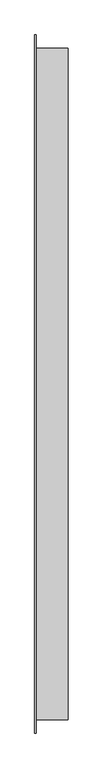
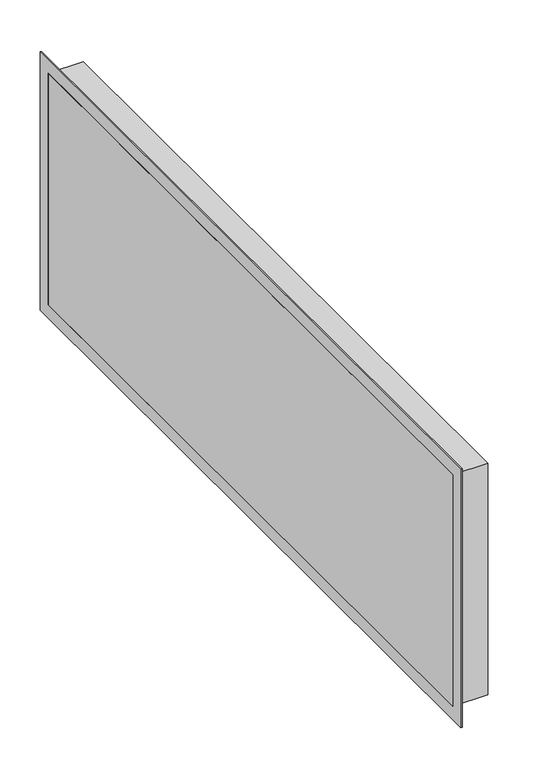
"""IFC4 building model written with IfcOpenShell, lengths in millimetres: duct fitting geometry, ADSK_ЗаглушкаВоздуховода_Прямоугольный : Стандартное."""

from ifc_helpers import new_model, si_unit, frame, origin, place, context, project, spatial, polyline, outline, extrude, source, transform, mapped, element, save


def duct_fitting_32a36c6a(model_context):
    return source(origin(), model_context, "Body", "SweptSolid", [
        extrude(outline(polyline([(0.0, -500.0), (0.0, 500.0), (50.0, 500.0), (50.0, -500.0), (0.0, -500.0)])), frame((0.0, 0.0, -175.0), z_axis=(0.0, 0.0, 1.0), x_axis=(1.0, 0.0, 0.0)), (0.0, 0.0, 1.0), 350.0),
        extrude(outline(polyline([(-520.0, 195.0), (520.0, 195.0), (520.0, -195.0), (-520.0, -195.0), (-520.0, 195.0)]), holes=[polyline([(-500.0, 175.0), (-500.0, -175.0), (500.0, -175.0), (500.0, 175.0), (-500.0, 175.0)])]), frame((0.0, 0.0, 0.0), z_axis=(1.0, 0.0, 0.0), x_axis=(0.0, 1.0, 0.0)), (0.0, 0.0, 1.0), 2.0),
    ])


if __name__ == "__main__":
    model = new_model("IFC4")
    model_context = context("Model", 3, world=origin())
    ifc_project = project(units=[si_unit("LENGTHUNIT", "METRE", prefix="MILLI")], contexts=[model_context])
    site = spatial("IfcSite", under=ifc_project)
    building = spatial("IfcBuilding", under=site)
    placement = place(None, origin())
    duct_fitting_shape = duct_fitting_32a36c6a(model_context)
    element("IfcDuctFitting", 1, ObjectType="ADSK_ЗаглушкаВоздуховода_Прямоугольный : Стандартное", at=placement, inside=building, context=model_context, shape_type="MappedRepresentation", body=[
        mapped(duct_fitting_shape, transform((0.0, 0.0, 0.0), x_axis=(1.0, 0.0, 0.0), y_axis=(0.0, 1.0, 0.0), z_axis=(0.0, 0.0, 1.0))),
    ])
    save(model, "model.ifc")
